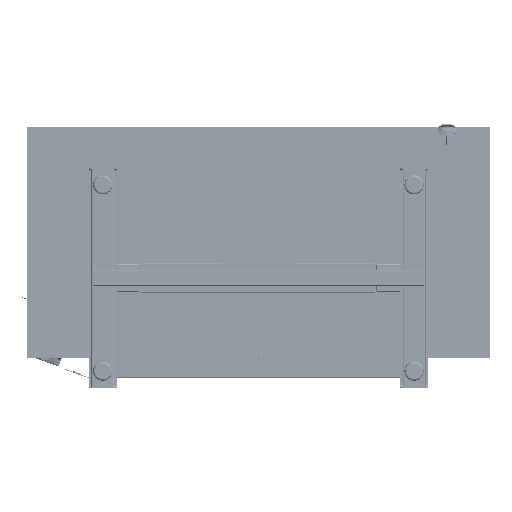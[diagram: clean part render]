
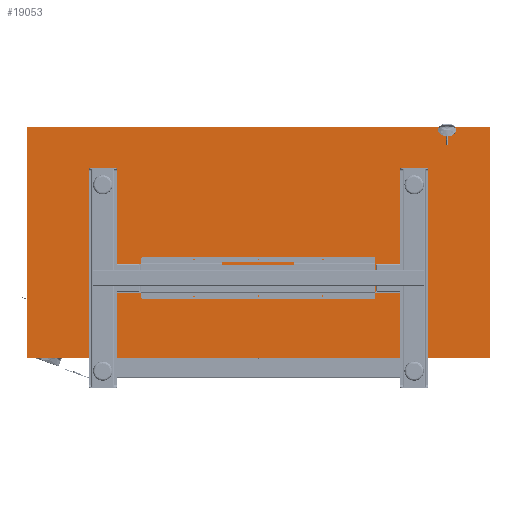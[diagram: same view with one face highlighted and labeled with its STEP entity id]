
A CAD part, front view. The second image highlights one B-rep face of the part: STEP entity #19053.
In plain terms, the highlighted planar face has unit normal (0, -1, 0).
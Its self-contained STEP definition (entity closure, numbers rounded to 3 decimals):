
#19053 = ADVANCED_FACE ( 'NONE', ( #230072 ), #190664, .F. ) ;
#32480 = EDGE_CURVE ( 'NONE', #296439, #325349, #351940, .T. ) ;
#51856 = AXIS2_PLACEMENT_3D ( 'NONE', #138637, #222084, #306687 ) ;
#67752 = CARTESIAN_POINT ( 'NONE',  ( -251.779, 617.204, 1568.762 ) ) ;
#70548 = LINE ( 'NONE', #204280, #105286 ) ;
#85308 = EDGE_CURVE ( 'NONE', #169127, #154917, #301130, .T. ) ;
#96739 = DIRECTION ( 'NONE',  ( 1., 0., 0. ) ) ;
#105286 = VECTOR ( 'NONE', #286572, 1000. ) ;
#112519 = LINE ( 'NONE', #67752, #198931 ) ;
#138637 = CARTESIAN_POINT ( 'NONE',  ( 662.621, 617.204, 1111.562 ) ) ;
#143416 = EDGE_LOOP ( 'NONE', ( #192276, #176863, #330240, #180423 ) ) ;
#154917 = VERTEX_POINT ( 'NONE', #190043 ) ;
#162768 = CARTESIAN_POINT ( 'NONE',  ( 1577.021, 617.204, 654.362 ) ) ;
#169127 = VERTEX_POINT ( 'NONE', #352941 ) ;
#176863 = ORIENTED_EDGE ( 'NONE', *, *, #352069, .F. ) ;
#180423 = ORIENTED_EDGE ( 'NONE', *, *, #224100, .F. ) ;
#190043 = CARTESIAN_POINT ( 'NONE',  ( 1577.021, 617.204, 654.362 ) ) ;
#190664 = PLANE ( 'NONE',  #51856 ) ;
#192276 = ORIENTED_EDGE ( 'NONE', *, *, #85308, .F. ) ;
#198931 = VECTOR ( 'NONE', #96739, 1000. ) ;
#204280 = CARTESIAN_POINT ( 'NONE',  ( -251.779, 617.204, 654.362 ) ) ;
#208571 = VECTOR ( 'NONE', #348403, 1000. ) ;
#222084 = DIRECTION ( 'NONE',  ( 0., 1., 0. ) ) ;
#224100 = EDGE_CURVE ( 'NONE', #154917, #296439, #70548, .T. ) ;
#230072 = FACE_OUTER_BOUND ( 'NONE', #143416, .T. ) ;
#243913 = DIRECTION ( 'NONE',  ( 0., 0., -1. ) ) ;
#257848 = VECTOR ( 'NONE', #243913, 1000. ) ;
#268507 = CARTESIAN_POINT ( 'NONE',  ( -251.779, 617.204, 654.362 ) ) ;
#278491 = CARTESIAN_POINT ( 'NONE',  ( -251.779, 617.204, 1568.762 ) ) ;
#286572 = DIRECTION ( 'NONE',  ( -1., 0., 0. ) ) ;
#296439 = VERTEX_POINT ( 'NONE', #354586 ) ;
#301130 = LINE ( 'NONE', #162768, #257848 ) ;
#306687 = DIRECTION ( 'NONE',  ( 0., 0., 1. ) ) ;
#325349 = VERTEX_POINT ( 'NONE', #278491 ) ;
#330240 = ORIENTED_EDGE ( 'NONE', *, *, #32480, .F. ) ;
#348403 = DIRECTION ( 'NONE',  ( 0., 0., 1. ) ) ;
#351940 = LINE ( 'NONE', #268507, #208571 ) ;
#352069 = EDGE_CURVE ( 'NONE', #325349, #169127, #112519, .T. ) ;
#352941 = CARTESIAN_POINT ( 'NONE',  ( 1577.021, 617.204, 1568.762 ) ) ;
#354586 = CARTESIAN_POINT ( 'NONE',  ( -251.779, 617.204, 654.362 ) ) ;
